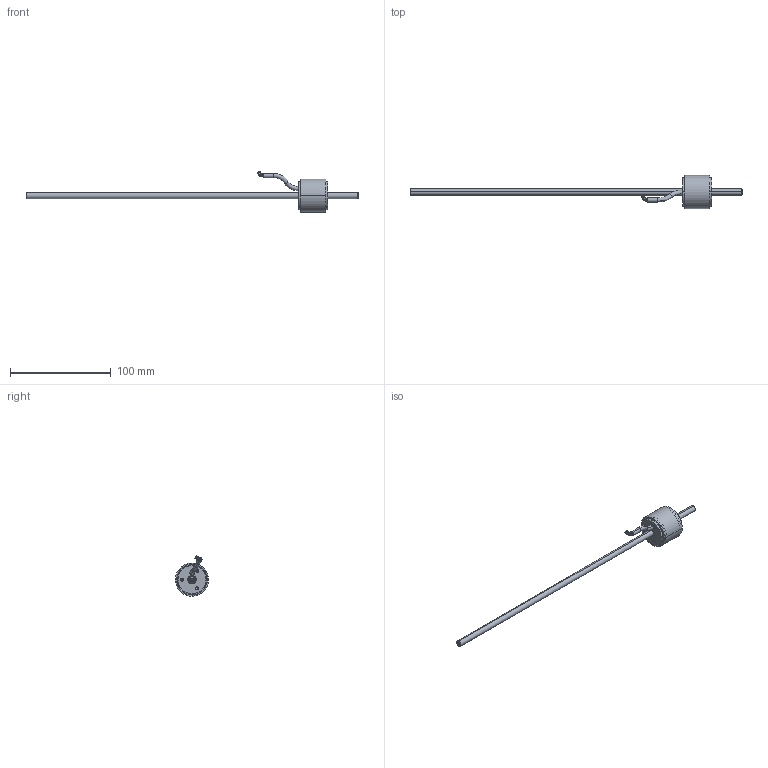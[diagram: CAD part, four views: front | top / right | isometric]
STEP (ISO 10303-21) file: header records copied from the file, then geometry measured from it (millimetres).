
FILE_DESCRIPTION (( 'STEP AP214' ), '1' );
FILE_NAME ('LinACE_d6_axial.STEP', '2020-06-23T13:24:38', ( '' ), ( '' ), 'SwSTEP 2.0', 'SolidWorks 2016', '' );
FILE_SCHEMA (( 'AUTOMOTIVE_DESIGN' ));
Length unit declared in the file: millimetre
Products named in the file (7): MN01536D01; oring; Kabel; Pokrov; Ležaj d6_D8_4_Povrtana; LinACE_d6_axial; Palica d6_L=330
Assembly tree (8 placements, depth 2):
  LinACE_d6_axial
    Palica d6_L=330
    MN01536D01
    Ležaj d6_D8_4_Povrtana  x2
    oring  x2
    Pokrov
    Kabel
Bounding box: 330 x 33 x 40.24 mm (x, y, z)
Volume: 23829.9 mm3; surface area: 19960 mm2
Topology: 8 solids, 8 shells, 309 faces, 708 edges, 430 vertices
Faces by surface type: cylinder 139, plane 79, cone 67, torus 24
Entity records: 8667 total; most frequent: CARTESIAN_POINT 1540, DIRECTION 1522, ORIENTED_EDGE 1268, EDGE_CURVE 634, AXIS2_PLACEMENT_3D 621, VERTEX_POINT 398, EDGE_LOOP 332, CIRCLE 328
